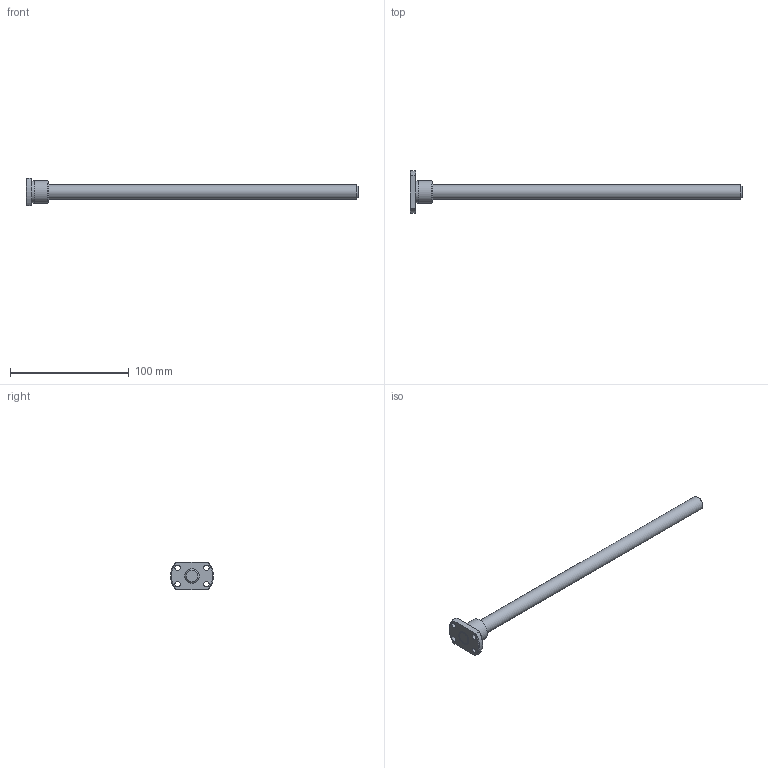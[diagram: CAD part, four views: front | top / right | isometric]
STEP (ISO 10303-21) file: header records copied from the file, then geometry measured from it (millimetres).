
FILE_DESCRIPTION( ( 'STEP AP203' ), '1' );
FILE_NAME( 'e:/temp/worker_92/temp/exporttempdir_144_1305_xP2Tc/format_0/SR1202K-280R280C10(0).stp', '2021-10-19T04:01:43', ( 'License CC BY-ND 4.0' ), ( 'CADENAS' ), ' ', 'PARTsolutions', ' ' );
FILE_SCHEMA( ( 'CONFIG_CONTROL_DESIGN' ) );
Length unit declared in the file: millimetre
Products named in the file (3): SR1202K-280R280C10(0); _SR1202K_shaft; _SR1202K_nut
Assembly tree (2 placements, depth 2):
  SR1202K-280R280C10(0)
    _SR1202K_shaft
    _SR1202K_nut
Bounding box: 280 x 36 x 23 mm (x, y, z)
Volume: 36910.4 mm3; surface area: 14238.6 mm2
Topology: 2 solids, 2 shells, 25 faces, 54 edges, 35 vertices
Faces by surface type: cylinder 10, plane 8, cone 7
Full cylindrical faces by diameter (mm): 4.5 x4, 12 x2, 18.6 x1, 19 x1
Entity records: 772 total; most frequent: CARTESIAN_POINT 130, DIRECTION 118, ORIENTED_EDGE 86, AXIS2_PLACEMENT_3D 55, EDGE_LOOP 48, EDGE_CURVE 43, VERTEX_POINT 35, FACE_OUTER_BOUND 33
